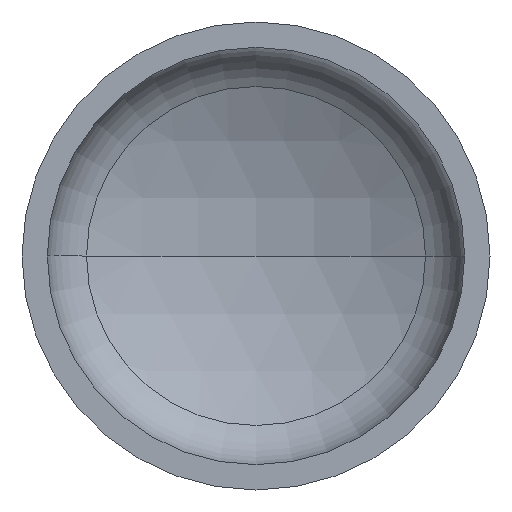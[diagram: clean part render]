
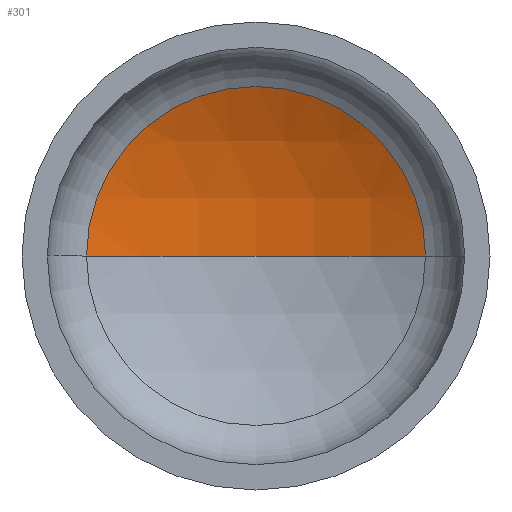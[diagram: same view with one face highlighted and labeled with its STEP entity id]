
A CAD part, front view. The second image highlights one B-rep face of the part: STEP entity #301.
In plain terms, the highlighted spherical face has radius 1360 mm.
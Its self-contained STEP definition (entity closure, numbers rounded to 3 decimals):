
#17 = EDGE_LOOP ( 'NONE', ( #385, #133, #222 ) ) ;
#34 = AXIS2_PLACEMENT_3D ( 'NONE', #187, #286, #82 ) ;
#50 = DIRECTION ( 'NONE',  ( 0., 0., -1. ) ) ;
#71 = CIRCLE ( 'NONE', #75, 1360. ) ;
#75 = AXIS2_PLACEMENT_3D ( 'NONE', #334, #148, #367 ) ;
#78 = AXIS2_PLACEMENT_3D ( 'NONE', #251, #50, #281 ) ;
#82 = DIRECTION ( 'NONE',  ( -1., 0., 0. ) ) ;
#85 = AXIS2_PLACEMENT_3D ( 'NONE', #365, #181, #394 ) ;
#86 = CARTESIAN_POINT ( 'NONE',  ( -615.709, 331.829, 0. ) ) ;
#133 = ORIENTED_EDGE ( 'NONE', *, *, #216, .T. ) ;
#137 = FACE_OUTER_BOUND ( 'NONE', #17, .T. ) ;
#148 = DIRECTION ( 'NONE',  ( 0., 0., 1. ) ) ;
#161 = CIRCLE ( 'NONE', #85, 615.709 ) ;
#181 = DIRECTION ( 'NONE',  ( 0., -1., 0. ) ) ;
#187 = CARTESIAN_POINT ( 'NONE',  ( 0., -880.814, 0. ) ) ;
#208 = EDGE_CURVE ( 'NONE', #328, #378, #161, .T. ) ;
#216 = EDGE_CURVE ( 'NONE', #325, #328, #327, .T. ) ;
#222 = ORIENTED_EDGE ( 'NONE', *, *, #208, .T. ) ;
#224 = EDGE_CURVE ( 'NONE', #325, #378, #71, .T. ) ;
#251 = CARTESIAN_POINT ( 'NONE',  ( 0., -880.814, 0. ) ) ;
#281 = DIRECTION ( 'NONE',  ( -1., 0., 0. ) ) ;
#286 = DIRECTION ( 'NONE',  ( 0., 0., -1. ) ) ;
#301 = ADVANCED_FACE ( 'NONE', ( #137 ), #303, .F. ) ;
#303 = SPHERICAL_SURFACE ( 'NONE', #34, 1360. ) ;
#315 = CARTESIAN_POINT ( 'NONE',  ( 0., 479.186, 0. ) ) ;
#325 = VERTEX_POINT ( 'NONE', #315 ) ;
#327 = CIRCLE ( 'NONE', #78, 1360. ) ;
#328 = VERTEX_POINT ( 'NONE', #338 ) ;
#334 = CARTESIAN_POINT ( 'NONE',  ( 0., -880.814, 0. ) ) ;
#338 = CARTESIAN_POINT ( 'NONE',  ( 615.709, 331.829, 0. ) ) ;
#365 = CARTESIAN_POINT ( 'NONE',  ( 0., 331.829, 0. ) ) ;
#367 = DIRECTION ( 'NONE',  ( 1., 0., 0. ) ) ;
#378 = VERTEX_POINT ( 'NONE', #86 ) ;
#385 = ORIENTED_EDGE ( 'NONE', *, *, #224, .F. ) ;
#394 = DIRECTION ( 'NONE',  ( 1., 0., 0. ) ) ;
